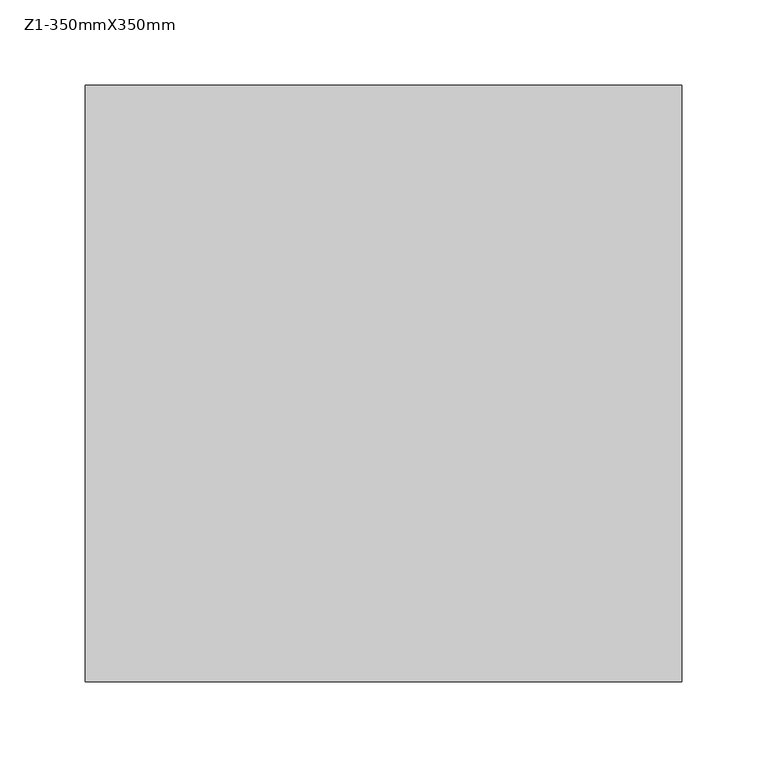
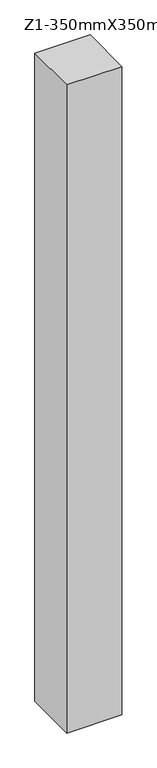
"""IFC4 building model written with IfcOpenShell, lengths in millimetres: column geometry, 混凝土 - 矩形 - 柱 : Z1-350mmX350mm."""

import ifcopenshell
import ifcopenshell.guid

model = None  # the IFC model being written
_history = None  # IfcOwnerHistory: only IFC2X3 demands one
_inside = {}  # id of a spatial element -> (the spatial element, [elements in it])
_under = {}  # id of a project, library or spatial element -> (it, [spatial elements below it])
_declared = {}  # id of a project -> (the project, [libraries it declares])
_typed = {}  # id of a type object -> (the type object, [elements of that type])
_made_of = {}  # id of a material, layer set ... -> (it, [elements and type objects made of it])


def new_model(schema):
    """Start an empty IFC model of exactly this schema.

    Asked for "IFC4X3", IfcOpenShell would pick the latest addendum, in which some entities
    have other attributes; the version numbers below select the first issue.
    IFC2X3 requires an IfcOwnerHistory on every rooted entity: one is made here for all.
    """
    global model, _history
    if schema == "IFC4X3":
        model = ifcopenshell.file(schema_version=(4, 3, 0, 0))
    else:
        model = ifcopenshell.file(schema=schema)
    _inside.clear()
    _under.clear()
    _declared.clear()
    _typed.clear()
    _made_of.clear()
    _history = None
    if model.schema == "IFC2X3":
        org = make("IfcOrganization", Name="unknown")
        user = make(
            "IfcPersonAndOrganization",
            ThePerson=make("IfcPerson", FamilyName="unknown"),
            TheOrganization=org,
        )
        app = make(
            "IfcApplication",
            ApplicationDeveloper=org,
            Version="unknown",
            ApplicationFullName="unknown",
            ApplicationIdentifier="unknown",
        )
        _history = make(
            "IfcOwnerHistory",
            OwningUser=user,
            OwningApplication=app,
            ChangeAction="ADDED",
            CreationDate=0,
        )
    return model


def make(cls, **values):
    """One entity of the class cls with the attributes given. An attribute that is None is left unset."""
    return model.create_entity(
        cls, **{name: value for name, value in values.items() if value is not None}
    )


def rooted(cls, **values):
    """An entity with a GlobalId (a new one), such as an element, a storey or a relation."""
    return make(cls, GlobalId=ifcopenshell.guid.new(), OwnerHistory=_history, **values)


def si_unit(unit_type, name, prefix=None):
    """IfcSIUnit, for example si_unit("LENGTHUNIT", "METRE", prefix="MILLI")."""
    return make("IfcSIUnit", UnitType=unit_type, Prefix=prefix, Name=name)


def assignment(units):
    """IfcUnitAssignment: the units of a project."""
    return None if units is None else make("IfcUnitAssignment", Units=units)


def point(xyz):
    """IfcCartesianPoint."""
    return None if xyz is None else make("IfcCartesianPoint", Coordinates=xyz)


def direction(xyz):
    """IfcDirection."""
    return None if xyz is None else make("IfcDirection", DirectionRatios=xyz)


def frame(location, z_axis=None, x_axis=None):
    """IfcAxis2Placement3D, a coordinate frame: its origin and axes. An axis left out is left unset."""
    return make(
        "IfcAxis2Placement3D",
        Location=point(location),
        Axis=direction(z_axis),
        RefDirection=direction(x_axis),
    )


def origin():
    """The frame at (0, 0, 0) with its axes left unset."""
    return frame((0.0, 0.0, 0.0))


def place(relative_to, where):
    """IfcLocalPlacement: puts the frame where relative to a parent placement (None: the world)."""
    return make(
        "IfcLocalPlacement", PlacementRelTo=relative_to, RelativePlacement=where
    )


def context(
    kind, dimensions, precision=None, world=None, true_north=None, identifier=None
):
    """IfcGeometricRepresentationContext, for example the 3D "Model" context."""
    return make(
        "IfcGeometricRepresentationContext",
        ContextIdentifier=identifier,
        ContextType=kind,
        CoordinateSpaceDimension=dimensions,
        Precision=precision,
        WorldCoordinateSystem=world,
        TrueNorth=true_north,
    )


def project(units=None, contexts=None):
    """IfcProject with its units and contexts."""
    return rooted(
        "IfcProject",
        Name="project",
        RepresentationContexts=contexts,
        UnitsInContext=assignment(units),
    )


def spatial(cls, under=None, at=None, **own):
    """A site, building, storey or space (cls), placed at a placement, below another one or the project."""
    s = rooted(cls, ObjectPlacement=at, **own)
    if under is not None:
        _under.setdefault(under.id(), (under, []))[1].append(s)
    return s


def polyline(points):
    """IfcPolyline through the points."""
    return make("IfcPolyline", Points=[point(p) for p in points])


def outline(outer, holes=None, kind="AREA"):
    """IfcArbitraryClosedProfileDef: a profile drawn as a closed curve; with holes, ...WithVoids."""
    if holes is None:
        return make("IfcArbitraryClosedProfileDef", ProfileType=kind, OuterCurve=outer)
    return make(
        "IfcArbitraryProfileDefWithVoids",
        ProfileType=kind,
        OuterCurve=outer,
        InnerCurves=holes,
    )


def extrude(swept, where, along, depth):
    """IfcExtrudedAreaSolid: the profile swept, set in the frame where, extruded along a direction by depth."""
    return make(
        "IfcExtrudedAreaSolid",
        SweptArea=swept,
        Position=where,
        ExtrudedDirection=direction(along),
        Depth=depth,
    )


def shape(context_of_items, identifier, shape_type, items):
    """IfcShapeRepresentation: the items that make up one representation, for example the "Body"."""
    return make(
        "IfcShapeRepresentation",
        ContextOfItems=context_of_items,
        RepresentationIdentifier=identifier,
        RepresentationType=shape_type,
        Items=items,
    )


def source(mapping_origin, context_of_items, identifier, shape_type, items):
    """IfcRepresentationMap: a shape defined once, which mapped items show again and again."""
    return make(
        "IfcRepresentationMap",
        MappingOrigin=mapping_origin,
        MappedRepresentation=shape(context_of_items, identifier, shape_type, items),
    )


def transform(
    local_origin,
    x_axis=None,
    y_axis=None,
    z_axis=None,
    scale=None,
    scale2=None,
    scale3=None,
    uniform=True,
):
    """IfcCartesianTransformationOperator3D, or its non-uniform kind. x_axis, y_axis, z_axis: its Axis1, 2, 3."""
    if uniform:
        return make(
            "IfcCartesianTransformationOperator3D",
            Axis1=direction(x_axis),
            Axis2=direction(y_axis),
            LocalOrigin=point(local_origin),
            Scale=scale,
            Axis3=direction(z_axis),
        )
    return make(
        "IfcCartesianTransformationOperator3DnonUniform",
        Axis1=direction(x_axis),
        Axis2=direction(y_axis),
        LocalOrigin=point(local_origin),
        Scale=scale,
        Axis3=direction(z_axis),
        Scale2=scale2,
        Scale3=scale3,
    )


def mapped(mapping_source, mapping_target):
    """IfcMappedItem: shows the shape of a source again, moved by a transform."""
    return make(
        "IfcMappedItem", MappingSource=mapping_source, MappingTarget=mapping_target
    )


def made_of(thing, what):
    """Note that an element or type object is made of a material, layer set ...; save() writes the relation."""
    if what is not None:
        _made_of.setdefault(what.id(), (what, []))[1].append(thing)
    return thing


def element(
    cls,
    number,
    at=None,
    inside=None,
    cuts=None,
    type_object=None,
    material=None,
    context=None,
    identifier="Body",
    shape_type=None,
    held_by="IfcProductDefinitionShape",
    body=None,
    shapes=None,
    **own,
):
    """One element of the class cls, such as IfcWall. Its Tag is "e" and its number.

    at: its placement. inside: the storey or other place that contains it. cuts: it is an
    opening in that element (IfcRelVoidsElement). A single representation is given by context,
    identifier, shape_type and body (its items); several are given by shapes. held_by: the class
    of the entity that holds the representations. save() writes the other relations.
    """
    e = rooted(cls, Tag="e%d" % number, ObjectPlacement=at, **own)
    if body is not None:
        shapes = [shape(context, identifier, shape_type, body)]
    if shapes is not None:
        e.Representation = make(held_by, Representations=shapes)
    if inside is not None:
        _inside.setdefault(inside.id(), (inside, []))[1].append(e)
    if cuts is not None:
        rooted(
            "IfcRelVoidsElement", RelatingBuildingElement=cuts, RelatedOpeningElement=e
        )
    if type_object is not None:
        _typed.setdefault(type_object.id(), (type_object, []))[1].append(e)
    return made_of(e, material)


def aggregate(whole, parts):
    """IfcRelAggregates: a whole, such as a stair, and the parts it consists of."""
    return rooted("IfcRelAggregates", RelatingObject=whole, RelatedObjects=parts)


def save(model, path):
    """Write the relations noted so far, then the file.

    IfcRelAggregates (storeys below a building ...), IfcRelContainedInSpatialStructure (elements
    in a storey), IfcRelDefinesByType, IfcRelAssociatesMaterial and IfcRelDeclares: one each for
    every whole, place, type object, material and project.
    """
    for whole, parts in _under.values():
        aggregate(whole, parts)
    for where, things in _inside.values():
        rooted(
            "IfcRelContainedInSpatialStructure",
            RelatedElements=things,
            RelatingStructure=where,
        )
    for kind, things in _typed.values():
        rooted("IfcRelDefinesByType", RelatedObjects=things, RelatingType=kind)
    for what, things in _made_of.values():
        rooted("IfcRelAssociatesMaterial", RelatedObjects=things, RelatingMaterial=what)
    for by, libraries in _declared.values():
        rooted("IfcRelDeclares", RelatingContext=by, RelatedDefinitions=libraries)
    model.write(path)


def z1_350mmx350mm_3cc50a67(model_context):
    return source(origin(), model_context, "Body", "SweptSolid", [
        extrude(outline(polyline([(175.0, -175.0), (-175.0, -175.0), (-175.0, 175.0), (175.0, 175.0), (175.0, -175.0)])), frame((0.0, 0.0, -450.0), z_axis=(0.0, 0.0, 1.0), x_axis=(1.0, 0.0, 0.0)), (0.0, 0.0, 1.0), 4350.0),
    ])


if __name__ == "__main__":
    model = new_model("IFC4")
    model_context = context("Model", 3, world=origin())
    ifc_project = project(units=[si_unit("LENGTHUNIT", "METRE", prefix="MILLI")], contexts=[model_context])
    site = spatial("IfcSite", under=ifc_project)
    building = spatial("IfcBuilding", under=site)
    placement = place(None, origin())
    z1_350mmx350mm_shape = z1_350mmx350mm_3cc50a67(model_context)
    element("IfcColumn", 1, ObjectType="混凝土 - 矩形 - 柱 : Z1-350mmX350mm", at=placement, inside=building, context=model_context, shape_type="MappedRepresentation", body=[
        mapped(z1_350mmx350mm_shape, transform((0.0, 0.0, 0.0), x_axis=(1.0, 0.0, 0.0), y_axis=(0.0, 1.0, 0.0), z_axis=(0.0, 0.0, 1.0))),
    ])
    save(model, "model.ifc")
